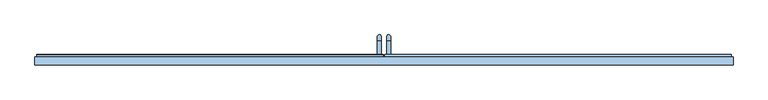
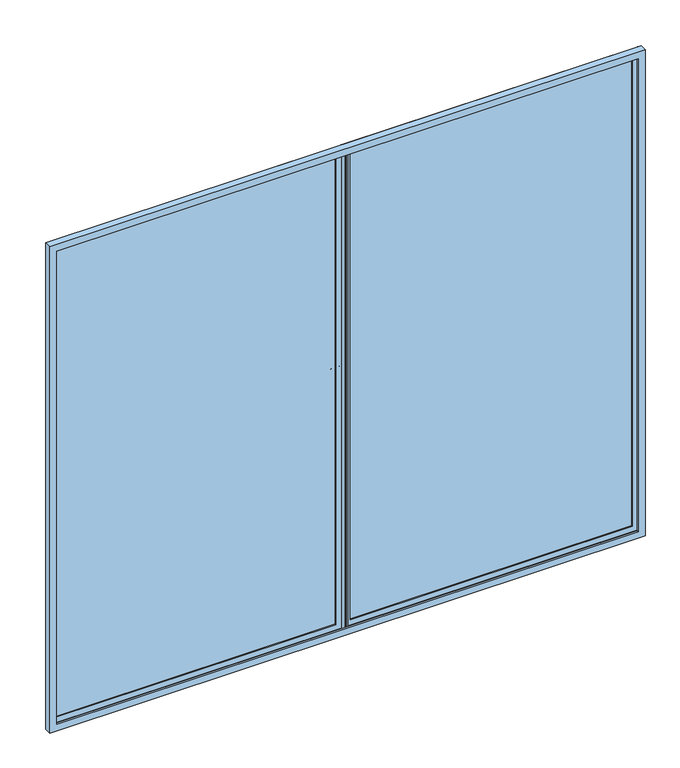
"""IFC4 building model written with IfcOpenShell, lengths in millimetres: window geometry, H107 Puerta bombas : H107 Puerta bombas 220x190."""

from ifc_helpers import new_model, si_unit, point, frame, origin, place, context, project, spatial, polyline, circle_curve, ellipse_curve, trimmed, outline, extrude, faceted_brep, source, transform, mapped, element, save
from ifc_brep_helpers import plane_surface, cylinder_surface, revolved_surface, advanced_brep


def window_8c95d47d(model_context):
    return source(origin(), model_context, "Body", "SolidModel", [
        advanced_brep(
        [(20.7, 53.7, 1000.0), (8.7, 53.7, 1000.0), (20.7, 95.7, 1000.0), (8.7, 95.7, 1000.0), (8.7, 109.7, 986.0), (20.7, 109.7, 986.0), (20.7, 109.7, 826.0), (8.7, 109.7, 826.0), (20.7, 53.7, 812.0), (8.7, 53.7, 812.0), (8.7, 95.7, 812.0), (20.7, 95.7, 812.0)],
        [
            (0, 1, circle_curve(frame((14.7, 53.7, 1000.0), z_axis=(0.0, -1.0, 0.0), x_axis=(-1.0, 0.0, 0.0)), 6.0)),
            (1, 0, circle_curve(frame((14.7, 53.7, 1000.0), z_axis=(0.0, -1.0, 0.0), x_axis=(-1.0, 0.0, 0.0)), 6.0)),
            (0, 2),
            (2, 3, circle_curve(frame((14.7, 95.7, 1000.0), z_axis=(0.0, -1.0, 0.0), x_axis=(-1.0, 0.0, 0.0)), 6.0)),
            (3, 1),
            (3, 2, circle_curve(frame((14.7, 95.7, 1000.0), z_axis=(0.0, -1.0, 0.0), x_axis=(-1.0, 0.0, 0.0)), 6.0)),
            (4, 5, circle_curve(frame((14.7, 109.7, 986.0), z_axis=(0.0, 0.0, -1.0), x_axis=(-1.0, 0.0, 0.0)), 6.0)),
            (5, 6),
            (6, 7, circle_curve(frame((14.7, 109.7, 826.0), z_axis=(0.0, 0.0, 1.0), x_axis=(-1.0, 0.0, 0.0)), 6.0)),
            (7, 4),
            (5, 4, circle_curve(frame((14.7, 109.7, 986.0), z_axis=(0.0, 0.0, -1.0), x_axis=(-1.0, 0.0, 0.0)), 6.0)),
            (7, 6, circle_curve(frame((14.7, 109.7, 826.0), z_axis=(0.0, 0.0, 1.0), x_axis=(-1.0, 0.0, 0.0)), 6.0)),
            (8, 9, circle_curve(frame((14.7, 53.7, 812.0), z_axis=(0.0, -1.0, 0.0), x_axis=(-1.0, 0.0, 0.0)), 6.0)),
            (9, 8, circle_curve(frame((14.7, 53.7, 812.0), z_axis=(0.0, -1.0, 0.0), x_axis=(-1.0, 0.0, 0.0)), 6.0)),
            (10, 11, circle_curve(frame((14.7, 95.7, 812.0), z_axis=(0.0, -1.0, 0.0), x_axis=(-1.0, 0.0, 0.0)), 6.0)),
            (11, 8),
            (9, 10),
            (11, 10, circle_curve(frame((14.7, 95.7, 812.0), z_axis=(0.0, -1.0, 0.0), x_axis=(-1.0, 0.0, 0.0)), 6.0)),
            (4, 3, circle_curve(frame((8.7, 95.7, 986.0), z_axis=(1.0, 0.0, 0.0), x_axis=(0.0, 0.0, 1.0)), 14.0)),
            (2, 5, circle_curve(frame((20.7, 95.7, 986.0), z_axis=(-1.0, 0.0, 0.0), x_axis=(0.0, 0.0, 1.0)), 14.0)),
            (10, 7, circle_curve(frame((8.7, 95.7, 826.0), z_axis=(1.0, 0.0, 0.0), x_axis=(0.0, 1.0, 0.0)), 14.0)),
            (6, 11, circle_curve(frame((20.7, 95.7, 826.0), z_axis=(-1.0, 0.0, 0.0), x_axis=(0.0, 1.0, 0.0)), 14.0)),
        ],
        [
            plane_surface(frame((14.7, 53.7, 1006.0), z_axis=(0.0, -1.0, 0.0), x_axis=(-1.0, 0.0, 0.0))),
            cylinder_surface(frame((14.7, 53.7, 1000.0), z_axis=(0.0, -1.0, 0.0), x_axis=(-1.0, 0.0, 0.0)), 6.0),
            cylinder_surface(frame((14.7, 109.7, 986.0), z_axis=(0.0, 0.0, 1.0), x_axis=(-1.0, 0.0, 0.0)), 6.0),
            plane_surface(frame((14.7, 53.7, 806.0), z_axis=(0.0, -1.0, 0.0), x_axis=(-1.0, 0.0, 0.0))),
            cylinder_surface(frame((14.7, 95.7, 812.0), z_axis=(0.0, 1.0, 0.0), x_axis=(-1.0, 0.0, 0.0)), 6.0),
            revolved_surface(trimmed(ellipse_curve(frame((14.7, 95.7, 1000.0), z_axis=(0.0, -1.0, 0.0), x_axis=(-1.0, 0.0, 0.0)), 6.0, 6.0), [point((20.7, 95.7, 1000.0))], [point((8.7, 95.7, 1000.0))], True, "CARTESIAN"), (14.7, 95.7, 986.0), (-1.0, 0.0, 0.0)),
            revolved_surface(trimmed(ellipse_curve(frame((14.7, 95.7, 1000.0), z_axis=(0.0, -1.0, 0.0), x_axis=(-1.0, 0.0, 0.0)), 6.0, 6.0), [point((8.7, 95.7, 1000.0))], [point((20.7, 95.7, 1000.0))], True, "CARTESIAN"), (14.7, 95.7, 986.0), (-1.0, 0.0, 0.0)),
            revolved_surface(trimmed(ellipse_curve(frame((14.7, 109.7, 826.0), z_axis=(0.0, 0.0, 1.0), x_axis=(-1.0, 0.0, 0.0)), 6.0, 6.0), [point((20.7, 109.7, 826.0))], [point((8.7, 109.7, 826.0))], True, "CARTESIAN"), (14.7, 95.7, 826.0), (-1.0, 0.0, 0.0)),
            revolved_surface(trimmed(ellipse_curve(frame((14.7, 109.7, 826.0), z_axis=(0.0, 0.0, 1.0), x_axis=(-1.0, 0.0, 0.0)), 6.0, 6.0), [point((8.7, 109.7, 826.0))], [point((20.7, 109.7, 826.0))], True, "CARTESIAN"), (14.7, 95.7, 826.0), (-1.0, 0.0, 0.0)),
        ],
        [
            (0, [[1, 2]]),
            (1, [[-1, 3, 4, 5]]),
            (1, [[-2, -5, 6, -3]]),
            (2, [[7, 8, 9, 10]]),
            (2, [[11, -10, 12, -8]]),
            (3, [[13, 14]]),
            (4, [[15, 16, -14, 17]]),
            (4, [[18, -17, -13, -16]]),
            (5, [[19, -4, 20, -7]]),
            (6, [[-20, -6, -19, -11]]),
            (7, [[21, -9, 22, -15]]),
            (8, [[-22, -12, -21, -18]]),
        ],
    ),
        advanced_brep(
        [(-8.7, 53.7, 1000.0), (-20.7, 53.7, 1000.0), (-8.7, 95.7, 1000.0), (-20.7, 95.7, 1000.0), (-20.7, 109.7, 986.0), (-8.7, 109.7, 986.0), (-8.7, 109.7, 826.0), (-20.7, 109.7, 826.0), (-8.7, 53.7, 812.0), (-20.7, 53.7, 812.0), (-20.7, 95.7, 812.0), (-8.7, 95.7, 812.0)],
        [
            (0, 1, circle_curve(frame((-14.7, 53.7, 1000.0), z_axis=(0.0, -1.0, 0.0), x_axis=(-1.0, 0.0, 0.0)), 6.0)),
            (1, 0, circle_curve(frame((-14.7, 53.7, 1000.0), z_axis=(0.0, -1.0, 0.0), x_axis=(-1.0, 0.0, 0.0)), 6.0)),
            (0, 2),
            (2, 3, circle_curve(frame((-14.7, 95.7, 1000.0), z_axis=(0.0, -1.0, 0.0), x_axis=(-1.0, 0.0, 0.0)), 6.0)),
            (3, 1),
            (3, 2, circle_curve(frame((-14.7, 95.7, 1000.0), z_axis=(0.0, -1.0, 0.0), x_axis=(-1.0, 0.0, 0.0)), 6.0)),
            (4, 5, circle_curve(frame((-14.7, 109.7, 986.0), z_axis=(0.0, 0.0, -1.0), x_axis=(-1.0, 0.0, 0.0)), 6.0)),
            (5, 6),
            (6, 7, circle_curve(frame((-14.7, 109.7, 826.0), z_axis=(0.0, 0.0, 1.0), x_axis=(-1.0, 0.0, 0.0)), 6.0)),
            (7, 4),
            (5, 4, circle_curve(frame((-14.7, 109.7, 986.0), z_axis=(0.0, 0.0, -1.0), x_axis=(-1.0, 0.0, 0.0)), 6.0)),
            (7, 6, circle_curve(frame((-14.7, 109.7, 826.0), z_axis=(0.0, 0.0, 1.0), x_axis=(-1.0, 0.0, 0.0)), 6.0)),
            (8, 9, circle_curve(frame((-14.7, 53.7, 812.0), z_axis=(0.0, -1.0, 0.0), x_axis=(-1.0, 0.0, 0.0)), 6.0)),
            (9, 8, circle_curve(frame((-14.7, 53.7, 812.0), z_axis=(0.0, -1.0, 0.0), x_axis=(-1.0, 0.0, 0.0)), 6.0)),
            (10, 11, circle_curve(frame((-14.7, 95.7, 812.0), z_axis=(0.0, -1.0, 0.0), x_axis=(-1.0, 0.0, 0.0)), 6.0)),
            (11, 8),
            (9, 10),
            (11, 10, circle_curve(frame((-14.7, 95.7, 812.0), z_axis=(0.0, -1.0, 0.0), x_axis=(-1.0, 0.0, 0.0)), 6.0)),
            (4, 3, circle_curve(frame((-20.7, 95.7, 986.0), z_axis=(1.0, 0.0, 0.0), x_axis=(0.0, 0.0, 1.0)), 14.0)),
            (2, 5, circle_curve(frame((-8.7, 95.7, 986.0), z_axis=(-1.0, 0.0, 0.0), x_axis=(0.0, 0.0, 1.0)), 14.0)),
            (10, 7, circle_curve(frame((-20.7, 95.7, 826.0), z_axis=(1.0, 0.0, 0.0), x_axis=(0.0, 1.0, 0.0)), 14.0)),
            (6, 11, circle_curve(frame((-8.7, 95.7, 826.0), z_axis=(-1.0, 0.0, 0.0), x_axis=(0.0, 1.0, 0.0)), 14.0)),
        ],
        [
            plane_surface(frame((-14.7, 53.7, 1006.0), z_axis=(0.0, -1.0, 0.0), x_axis=(-1.0, 0.0, 0.0))),
            cylinder_surface(frame((-14.7, 53.7, 1000.0), z_axis=(0.0, -1.0, 0.0), x_axis=(-1.0, 0.0, 0.0)), 6.0),
            cylinder_surface(frame((-14.7, 109.7, 986.0), z_axis=(0.0, 0.0, 1.0), x_axis=(-1.0, 0.0, 0.0)), 6.0),
            plane_surface(frame((-14.7, 53.7, 806.0), z_axis=(0.0, -1.0, 0.0), x_axis=(-1.0, 0.0, 0.0))),
            cylinder_surface(frame((-14.7, 95.7, 812.0), z_axis=(0.0, 1.0, 0.0), x_axis=(-1.0, 0.0, 0.0)), 6.0),
            revolved_surface(trimmed(ellipse_curve(frame((-14.7, 95.7, 1000.0), z_axis=(0.0, -1.0, 0.0), x_axis=(-1.0, 0.0, 0.0)), 6.0, 6.0), [point((-8.7, 95.7, 1000.0))], [point((-20.7, 95.7, 1000.0))], True, "CARTESIAN"), (-14.7, 95.7, 986.0), (-1.0, 0.0, 0.0)),
            revolved_surface(trimmed(ellipse_curve(frame((-14.7, 95.7, 1000.0), z_axis=(0.0, -1.0, 0.0), x_axis=(-1.0, 0.0, 0.0)), 6.0, 6.0), [point((-20.7, 95.7, 1000.0))], [point((-8.7, 95.7, 1000.0))], True, "CARTESIAN"), (-14.7, 95.7, 986.0), (-1.0, 0.0, 0.0)),
            revolved_surface(trimmed(ellipse_curve(frame((-14.7, 109.7, 826.0), z_axis=(0.0, 0.0, 1.0), x_axis=(-1.0, 0.0, 0.0)), 6.0, 6.0), [point((-8.7, 109.7, 826.0))], [point((-20.7, 109.7, 826.0))], True, "CARTESIAN"), (-14.7, 95.7, 826.0), (-1.0, 0.0, 0.0)),
            revolved_surface(trimmed(ellipse_curve(frame((-14.7, 109.7, 826.0), z_axis=(0.0, 0.0, 1.0), x_axis=(-1.0, 0.0, 0.0)), 6.0, 6.0), [point((-20.7, 109.7, 826.0))], [point((-8.7, 109.7, 826.0))], True, "CARTESIAN"), (-14.7, 95.7, 826.0), (-1.0, 0.0, 0.0)),
        ],
        [
            (0, [[1, 2]]),
            (1, [[-1, 3, 4, 5]]),
            (1, [[-2, -5, 6, -3]]),
            (2, [[7, 8, 9, 10]]),
            (2, [[11, -10, 12, -8]]),
            (3, [[13, 14]]),
            (4, [[15, 16, -14, 17]]),
            (4, [[18, -17, -13, -16]]),
            (5, [[19, -4, 20, -7]]),
            (6, [[-20, -6, -19, -11]]),
            (7, [[21, -9, 22, -15]]),
            (8, [[-22, -12, -21, -18]]),
        ],
    ),
        faceted_brep([(27.4, 52.4, 1868.6), (27.4, 47.9, 1868.6), (27.4, 47.9, 31.4), (27.4, 52.4, 31.4), (6.5, 47.9, 10.5), (1089.5, 47.9, 10.5), (1089.5, 47.9, 1889.5), (6.5, 47.9, 1889.5), (1068.6, 47.9, 1868.6), (1068.6, 47.9, 31.4), (1068.6, 52.4, 31.4), (2.0, 52.4, 1894.0), (1094.0, 52.4, 1894.0), (1094.0, 52.4, 6.0), (2.0, 52.4, 6.0), (1068.6, 52.4, 1868.6), (6.5, 27.0, 1889.5), (6.5, 27.0, 10.5), (2.0, 27.0, 6.0), (1094.0, 27.0, 6.0), (1094.0, 27.0, 1894.0), (2.0, 27.0, 1894.0), (1089.5, 27.0, 1889.5), (1089.5, 27.0, 10.5)], [[[0, 1, 2, 3]], [[4, 5, 6, 7], [1, 8, 9, 2]], [[3, 2, 9, 10]], [[11, 12, 13, 14], [3, 10, 15, 0]], [[7, 16, 17, 4]], [[18, 19, 20, 21], [16, 22, 23, 17]], [[4, 17, 23, 5]], [[21, 11, 14, 18]], [[18, 14, 13, 19]], [[10, 9, 8, 15]], [[5, 23, 22, 6]], [[19, 13, 12, 20]], [[15, 8, 1, 0]], [[6, 22, 16, 7]], [[20, 12, 11, 21]]]),
        extrude(outline(polyline([(2.0, 53.7), (1094.0, 53.7), (1094.0, 52.4), (2.0, 52.4), (2.0, 53.7)])), frame((0.0, 0.0, 6.0), z_axis=(0.0, 0.0, 1.0), x_axis=(1.0, 0.0, 0.0)), (0.0, 0.0, 1.0), 1888.0),
        extrude(outline(polyline([(-2.0, 52.4), (-1094.0, 52.4), (-1094.0, 53.7), (-2.0, 53.7), (-2.0, 52.4)])), frame((0.0, 0.0, 6.0), z_axis=(0.0, 0.0, 1.0), x_axis=(1.0, 0.0, 0.0)), (0.0, 0.0, 1.0), 1888.0),
        faceted_brep([(-2.0, 52.4, 1894.0), (-2.0, 27.0, 1894.0), (-2.0, 27.0, 6.0), (-2.0, 52.4, 6.0), (-1094.0, 27.0, 1894.0), (-1094.0, 27.0, 6.0), (-6.5, 27.0, 10.5), (-1089.5, 27.0, 10.5), (-1089.5, 27.0, 1889.5), (-6.5, 27.0, 1889.5), (-1094.0, 52.4, 6.0), (-1094.0, 52.4, 1894.0), (-27.4, 52.4, 1868.6), (-1068.6, 52.4, 1868.6), (-1068.6, 52.4, 31.4), (-27.4, 52.4, 31.4), (-6.5, 47.9, 1889.5), (-6.5, 47.9, 10.5), (-1089.5, 47.9, 1889.5), (-1089.5, 47.9, 10.5), (-27.4, 47.9, 31.4), (-1068.6, 47.9, 31.4), (-1068.6, 47.9, 1868.6), (-27.4, 47.9, 1868.6)], [[[0, 1, 2, 3]], [[1, 4, 5, 2], [6, 7, 8, 9]], [[3, 2, 5, 10]], [[3, 10, 11, 0], [12, 13, 14, 15]], [[9, 16, 17, 6]], [[16, 18, 19, 17], [20, 21, 22, 23]], [[6, 17, 19, 7]], [[23, 12, 15, 20]], [[20, 15, 14, 21]], [[10, 5, 4, 11]], [[7, 19, 18, 8]], [[21, 14, 13, 22]], [[11, 4, 1, 0]], [[8, 18, 16, 9]], [[22, 13, 12, 23]]]),
        faceted_brep([(-1100.0, 19.7, 1900.0), (-1100.0, 45.1, 1900.0), (-1100.0, 45.1, 0.0), (-1100.0, 19.7, 0.0), (1100.0, 45.1, 1900.0), (1100.0, 45.1, 0.0), (-1094.0, 45.1, 6.0), (1094.0, 45.1, 6.0), (1094.0, 45.1, 1894.0), (-1094.0, 45.1, 1894.0), (1100.0, 19.7, 0.0), (1100.0, 19.7, 1900.0), (-1074.6, 19.7, 1874.6), (1074.6, 19.7, 1874.6), (1074.6, 19.7, 25.4), (-1074.6, 19.7, 25.4), (-1094.0, 25.7, 1894.0), (-1094.0, 25.7, 6.0), (1094.0, 25.7, 1894.0), (1094.0, 25.7, 6.0), (-1074.6, 25.7, 25.4), (1074.6, 25.7, 25.4), (1074.6, 25.7, 1874.6), (-1074.6, 25.7, 1874.6)], [[[0, 1, 2, 3]], [[1, 4, 5, 2], [6, 7, 8, 9]], [[3, 2, 5, 10]], [[3, 10, 11, 0], [12, 13, 14, 15]], [[9, 16, 17, 6]], [[16, 18, 19, 17], [20, 21, 22, 23]], [[6, 17, 19, 7]], [[23, 12, 15, 20]], [[20, 15, 14, 21]], [[10, 5, 4, 11]], [[7, 19, 18, 8]], [[21, 14, 13, 22]], [[11, 4, 1, 0]], [[8, 18, 16, 9]], [[22, 13, 12, 23]]]),
    ])


if __name__ == "__main__":
    model = new_model("IFC4")
    model_context = context("Model", 3, world=origin())
    ifc_project = project(units=[si_unit("LENGTHUNIT", "METRE", prefix="MILLI")], contexts=[model_context])
    site = spatial("IfcSite", under=ifc_project)
    building = spatial("IfcBuilding", under=site)
    placement = place(None, origin())
    window_shape = window_8c95d47d(model_context)
    element("IfcWindow", 1, ObjectType="H107 Puerta bombas : H107 Puerta bombas 220x190", at=placement, inside=building, context=model_context, shape_type="MappedRepresentation", body=[
        mapped(window_shape, transform((0.0, 0.0, 0.0), x_axis=(1.0, 0.0, 0.0), y_axis=(0.0, 1.0, 0.0), z_axis=(0.0, 0.0, 1.0))),
    ])
    save(model, "model.ifc")
